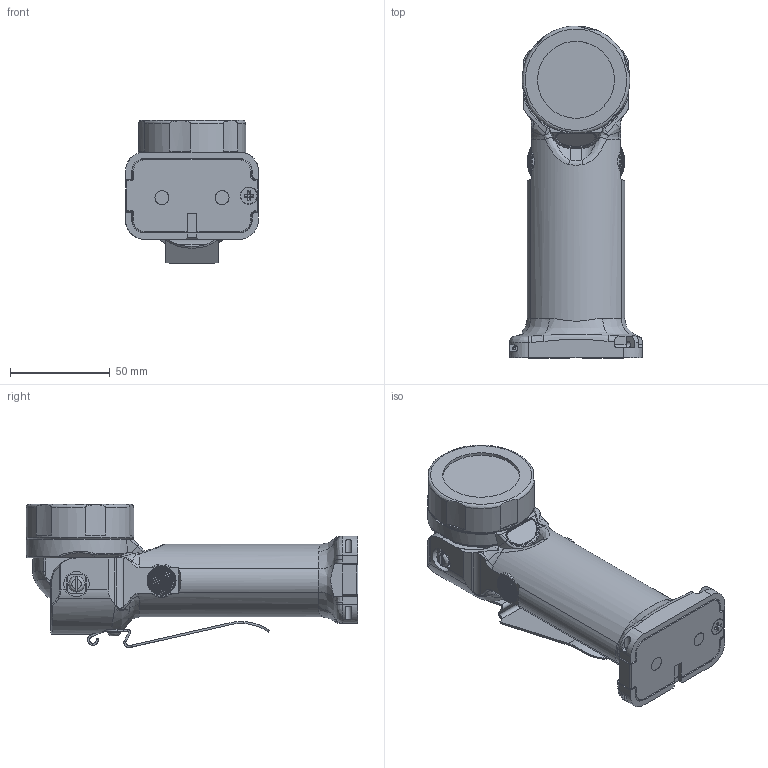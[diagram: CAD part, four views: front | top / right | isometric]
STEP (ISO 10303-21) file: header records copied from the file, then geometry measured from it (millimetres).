
FILE_DESCRIPTION (( 'STEP AP203' ), '1' );
FILE_NAME ('5566-68-MECH-GA01-01-REV-B-20160713.STEP', '2022-07-19T15:11:22', ( '' ), ( '' ), 'SwSTEP 2.0', 'SolidWorks 2022', '' );
FILE_SCHEMA (( 'CONFIG_CONTROL_DESIGN' ));
Length unit declared in the file: inch
Products named in the file (19): pan slot head_am_B18.6.7M - M3 x 0.5 x 5 Slotted PHMS --5N; BATTERY DOOR; HEAD AND REFLECTOR 6; SCREW CAP-a; 99362A300; SPOT LENS; 5566-68-MECH-GA01-01-REV-B-20160713; 97395A418_97395A418; 92146A540; socket button head cap screw_ai(SBHCSCREW 0.138-32x0.3125-HX-N); pan slot head_am_B18.6.7M - M4 x 0.7 x 13 Slotted PHMS --13N; 4616-PACK-switch-rubber-cover; LENS RING; SCREW-a; STAR; HEAD_60-k; POCKET CLIP; BATTERY DOOR CONTACT PAD; TRI BAT BODY 7
Assembly tree (23 placements, depth 3):
  5566-68-MECH-GA01-01-REV-B-20160713
    TRI BAT BODY 7
    HEAD AND REFLECTOR 6
      LENS RING
      SPOT LENS
      HEAD_60-k
    STAR
    pan slot head_am_B18.6.7M - M4 x 0.7 x 13 Slotted PHMS --13N
    97395A418_97395A418
    pan slot head_am_B18.6.7M - M3 x 0.5 x 5 Slotted PHMS --5N
    BATTERY DOOR
    99362A300  x2
    92146A540  x2
    POCKET CLIP
    socket button head cap screw_ai(SBHCSCREW 0.138-32x0.3125-HX-N)  x2
    4616-PACK-switch-rubber-cover  x2
    SCREW CAP-a
    SCREW-a
    BATTERY DOOR CONTACT PAD  x2
Bounding box: 66.69 x 166.51 x 71.87 mm (x, y, z)
Volume: 146188.4 mm3; surface area: 94387.8 mm2
Topology: 24 solids, 24 shells, 2719 faces, 6829 edges, 4431 vertices
Faces by surface type: plane 1520, cylinder 504, bspline 283, sphere 261, torus 78, cone 73
Full cylindrical faces by diameter (mm): 1.2 x2, 1.587 x1, 1.588 x2, 1.638 x1, 1.75 x2, 1.95 x2, 2.4 x1, 3.1 x1, 3.4 x1, 3.5 x2, 3.505 x4, 3.6 x1, 3.7 x1, 4 x6, 4.1 x2, 4.5 x4, 4.894 x1, 4.928 x2, 5.5 x1, 6 x2, 6.655 x2, 7 x4, 7.25 x4, 7.874 x1, 7.9 x1, 8 x4, 8.3 x1, 9 x1, 9.1 x2, 12.446 x2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
Entity records: 98988 total; most frequent: CARTESIAN_POINT 50821, ORIENTED_EDGE 9766, DIRECTION 9548, EDGE_CURVE 4883, AXIS2_PLACEMENT_3D 3746, VERTEX_POINT 3191, EDGE_LOOP 2270, FACE_OUTER_BOUND 2057
